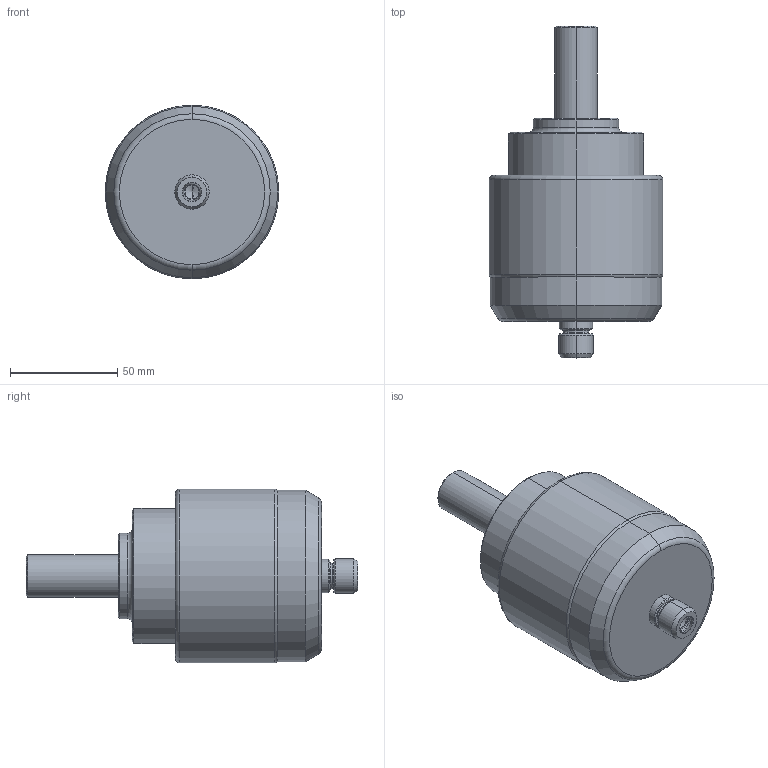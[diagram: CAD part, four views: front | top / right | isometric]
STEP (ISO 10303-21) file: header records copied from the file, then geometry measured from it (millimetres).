
FILE_DESCRIPTION (( 'STEP AP214' ), '1' );
FILE_NAME ('TJS-HPC-ST20-light.STEP', '2018-05-03T10:23:34', ( '' ), ( '' ), 'SwSTEP 2.0', 'SolidWorks 2015', '' );
FILE_SCHEMA (( 'AUTOMOTIVE_DESIGN' ));
Length unit declared in the file: millimetre
Products named in the file (1): TJS-HPC-ST20-light
Bounding box: 81 x 154.8 x 81 mm (x, y, z)
Volume: 427990 mm3; surface area: 35950.4 mm2
Topology: 1 solids, 1 shells, 82 faces, 166 edges, 92 vertices
Faces by surface type: cone 32, cylinder 30, torus 10, plane 10
Entity records: 2136 total; most frequent: DIRECTION 428, CARTESIAN_POINT 337, ORIENTED_EDGE 324, AXIS2_PLACEMENT_3D 183, EDGE_CURVE 162, CIRCLE 100, VERTEX_POINT 92, EDGE_LOOP 92
